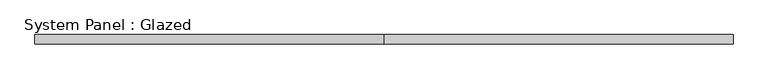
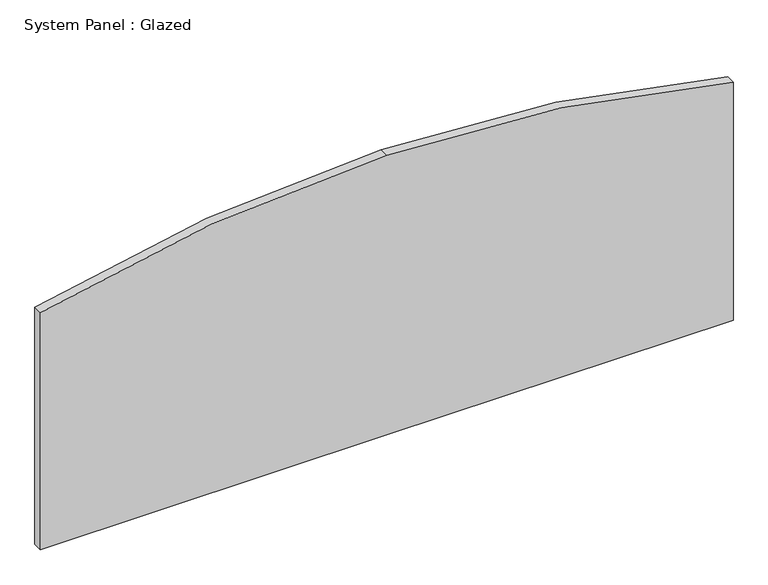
"""IFC4 building model written with IfcOpenShell, lengths in millimetres: plate geometry, System Panel : Glazed."""

from ifc_helpers import new_model, si_unit, point, frame, frame_2d, origin, place, context, project, spatial, polyline, circle_curve, trimmed, segment, composite_curve, outline, extrude, source, transform, mapped, element, save


def system_panel_glazed_9944f469(model_context):
    return source(origin(), model_context, "Body", "SweptSolid", [
        extrude(outline(composite_curve([segment(polyline([(0.0, -933.45), (0.0, 0.0), (0.0, 933.45), (677.7323924, 933.45)]), True, "CONTINUOUS"), segment(trimmed(circle_curve(frame_2d((-2861.0640133, 4.6308928)), 3658.6588985), [point((677.7323924, 933.45))], [point((797.5920535, 0.079003))], False, "CARTESIAN"), True, "CONTINUOUS"), segment(trimmed(circle_curve(frame_2d((-2861.0640133, 4.6308928)), 3658.6588985), [point((797.5920535, 0.079003))], [point((675.2885107, -933.45))], False, "CARTESIAN"), True, "CONTINUOUS"), segment(polyline([(675.2885107, -933.45), (0.0, -933.45)]), True, "CONTINUOUS")], self_intersect=False)), frame((0.0, 19.05, 0.0), z_axis=(0.0, 1.0, 0.0), x_axis=(0.0, 0.0, 1.0)), (0.0, 0.0, 1.0), 25.4),
    ])


if __name__ == "__main__":
    model = new_model("IFC4")
    model_context = context("Model", 3, world=origin())
    ifc_project = project(units=[si_unit("LENGTHUNIT", "METRE", prefix="MILLI")], contexts=[model_context])
    site = spatial("IfcSite", under=ifc_project)
    building = spatial("IfcBuilding", under=site)
    placement = place(None, origin())
    system_panel_glazed_shape = system_panel_glazed_9944f469(model_context)
    element("IfcPlate", 1, ObjectType="System Panel : Glazed", at=placement, inside=building, context=model_context, shape_type="MappedRepresentation", body=[
        mapped(system_panel_glazed_shape, transform((0.0, 0.0, 0.0), x_axis=(1.0, 0.0, 0.0), y_axis=(0.0, 1.0, 0.0), z_axis=(0.0, 0.0, 1.0))),
    ])
    save(model, "model.ifc")
